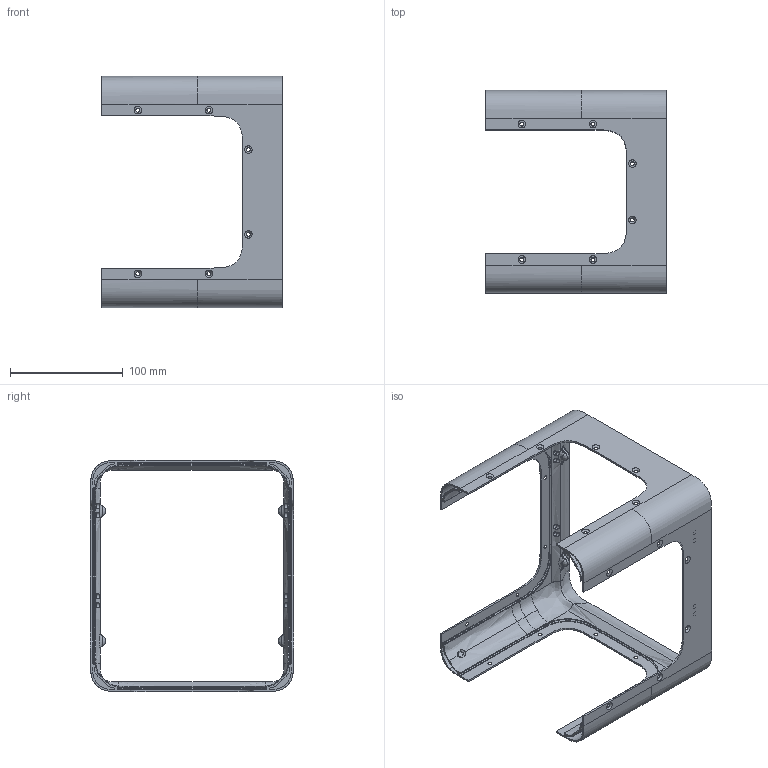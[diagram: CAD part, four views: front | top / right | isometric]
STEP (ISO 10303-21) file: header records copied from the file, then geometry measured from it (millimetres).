
FILE_DESCRIPTION(/* description */ (''),/* implementation_level */ '2;1');
FILE_NAME(/* name */ 'FRONT FRAME (3).step',/* time_stamp */ '2024-02-28T17:10:00Z',/* author */ (''),/* organization */ (''),/* preprocessor_version */ 'ST-DEVELOPER v20',/* originating_system */ 'Autodesk Translation Framework v12.20.1.177',/* authorisation */ '');
FILE_SCHEMA (('AUTOMOTIVE_DESIGN { 1 0 10303 214 3 1 1 }'));
Products named in the file (1): FRONT FRAME (3)
Bounding box: 160 x 180 x 205 mm (x, y, z)
Volume: 182500.2 mm3; surface area: 162970.8 mm2
Topology: 1 solids, 3 shells, 401 faces, 1036 edges, 644 vertices
Faces by surface type: bspline 194, plane 119, cylinder 56, cone 32
Full cylindrical faces by diameter (mm): 1.5 x4, 4 x8
Entity records: 51217 total; most frequent: CARTESIAN_POINT 42847, ORIENTED_EDGE 2072, DIRECTION 1118, EDGE_CURVE 1036, VERTEX_POINT 644, EDGE_LOOP 462, B_SPLINE_CURVE_WITH_KNOTS 450, FACE_OUTER_BOUND 401
